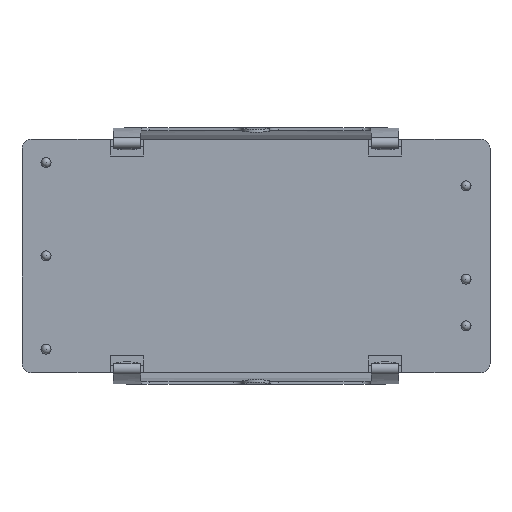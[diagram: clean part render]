
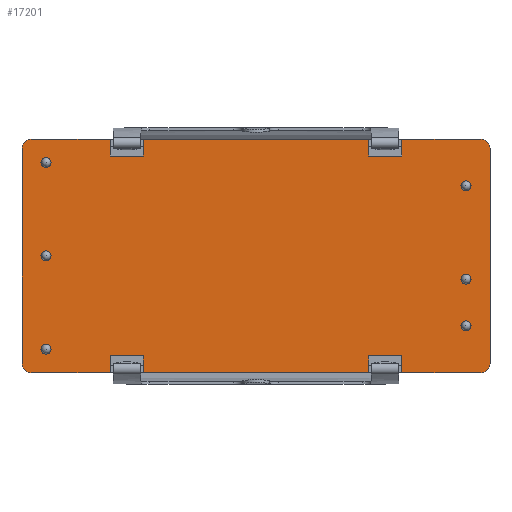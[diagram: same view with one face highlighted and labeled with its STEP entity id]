
A CAD part, top view. The second image highlights one B-rep face of the part: STEP entity #17201.
In plain terms, the highlighted planar face has unit normal (0, 0, 1).
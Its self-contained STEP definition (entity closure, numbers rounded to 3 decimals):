
#84=FACE_BOUND('',#2359,.T.);
#85=FACE_BOUND('',#2360,.T.);
#86=FACE_BOUND('',#2361,.T.);
#87=FACE_BOUND('',#2362,.T.);
#88=FACE_BOUND('',#2363,.T.);
#89=FACE_BOUND('',#2364,.T.);
#1393=FACE_OUTER_BOUND('',#2358,.T.);
#2358=EDGE_LOOP('',(#15665,#15666,#15667,#15668,#15669,#15670,#15671,#15672,
#15673,#15674,#15675,#15676,#15677,#15678,#15679,#15680,#15681,#15682,#15683,
#15684,#15685,#15686,#15687,#15688));
#2359=EDGE_LOOP('',(#15689));
#2360=EDGE_LOOP('',(#15690));
#2361=EDGE_LOOP('',(#15691));
#2362=EDGE_LOOP('',(#15692));
#2363=EDGE_LOOP('',(#15693));
#2364=EDGE_LOOP('',(#15694));
#3180=CIRCLE('',#18889,0.55);
#3182=CIRCLE('',#18892,0.55);
#3184=CIRCLE('',#18895,0.55);
#3186=CIRCLE('',#18898,0.55);
#3188=CIRCLE('',#18901,0.55);
#3190=CIRCLE('',#18904,0.55);
#3207=CIRCLE('',#18941,1.025);
#3208=CIRCLE('',#18943,1.025);
#3209=CIRCLE('',#18946,1.025);
#3210=CIRCLE('',#18948,1.025);
#4749=LINE('',#29182,#6401);
#4752=LINE('',#29187,#6404);
#4757=LINE('',#29196,#6409);
#4765=LINE('',#29214,#6417);
#4768=LINE('',#29219,#6420);
#4773=LINE('',#29228,#6425);
#4781=LINE('',#29245,#6433);
#4785=LINE('',#29253,#6437);
#4788=LINE('',#29258,#6440);
#4797=LINE('',#29277,#6449);
#4802=LINE('',#29287,#6454);
#4806=LINE('',#29293,#6458);
#4809=LINE('',#29299,#6461);
#4810=LINE('',#29302,#6462);
#4814=LINE('',#29308,#6466);
#4817=LINE('',#29314,#6469);
#4818=LINE('',#29317,#6470);
#4822=LINE('',#29323,#6474);
#4857=LINE('',#29469,#6509);
#4861=LINE('',#29480,#6513);
#6401=VECTOR('',#23771,3.6);
#6404=VECTOR('',#23776,1.85);
#6409=VECTOR('',#23783,1.85);
#6417=VECTOR('',#23795,3.6);
#6420=VECTOR('',#23800,1.85);
#6425=VECTOR('',#23807,1.85);
#6433=VECTOR('',#23819,1.85);
#6437=VECTOR('',#23825,3.6);
#6440=VECTOR('',#23830,1.85);
#6449=VECTOR('',#23843,1.85);
#6454=VECTOR('',#23850,1.85);
#6458=VECTOR('',#23856,3.6);
#6461=VECTOR('',#23861,8.6);
#6462=VECTOR('',#23864,8.6);
#6466=VECTOR('',#23870,24.5);
#6469=VECTOR('',#23875,8.6);
#6470=VECTOR('',#23878,8.6);
#6474=VECTOR('',#23884,24.5);
#6509=VECTOR('',#24049,23.4);
#6513=VECTOR('',#24063,23.4);
#8045=VERTEX_POINT('',#29179);
#8046=VERTEX_POINT('',#29181);
#8047=VERTEX_POINT('',#29186);
#8050=VERTEX_POINT('',#29194);
#8057=VERTEX_POINT('',#29211);
#8058=VERTEX_POINT('',#29213);
#8059=VERTEX_POINT('',#29218);
#8062=VERTEX_POINT('',#29226);
#8068=VERTEX_POINT('',#29242);
#8069=VERTEX_POINT('',#29244);
#8072=VERTEX_POINT('',#29252);
#8073=VERTEX_POINT('',#29257);
#8080=VERTEX_POINT('',#29274);
#8081=VERTEX_POINT('',#29276);
#8084=VERTEX_POINT('',#29284);
#8085=VERTEX_POINT('',#29286);
#8088=VERTEX_POINT('',#29297);
#8089=VERTEX_POINT('',#29301);
#8092=VERTEX_POINT('',#29312);
#8093=VERTEX_POINT('',#29316);
#8108=VERTEX_POINT('',#29361);
#8110=VERTEX_POINT('',#29366);
#8112=VERTEX_POINT('',#29371);
#8114=VERTEX_POINT('',#29376);
#8116=VERTEX_POINT('',#29381);
#8118=VERTEX_POINT('',#29386);
#8139=VERTEX_POINT('',#29467);
#8140=VERTEX_POINT('',#29468);
#8141=VERTEX_POINT('',#29475);
#8142=VERTEX_POINT('',#29479);
#10513=EDGE_CURVE('',#8046,#8045,#4749,.T.);
#10516=EDGE_CURVE('',#8047,#8046,#4752,.T.);
#10521=EDGE_CURVE('',#8045,#8050,#4757,.T.);
#10529=EDGE_CURVE('',#8058,#8057,#4765,.T.);
#10532=EDGE_CURVE('',#8059,#8058,#4768,.T.);
#10537=EDGE_CURVE('',#8057,#8062,#4773,.T.);
#10545=EDGE_CURVE('',#8069,#8068,#4781,.T.);
#10549=EDGE_CURVE('',#8072,#8069,#4785,.T.);
#10552=EDGE_CURVE('',#8073,#8072,#4788,.T.);
#10561=EDGE_CURVE('',#8081,#8080,#4797,.T.);
#10566=EDGE_CURVE('',#8085,#8084,#4802,.T.);
#10570=EDGE_CURVE('',#8080,#8085,#4806,.T.);
#10573=EDGE_CURVE('',#8088,#8062,#4809,.T.);
#10574=EDGE_CURVE('',#8047,#8089,#4810,.T.);
#10578=EDGE_CURVE('',#8059,#8050,#4814,.T.);
#10581=EDGE_CURVE('',#8092,#8084,#4817,.T.);
#10582=EDGE_CURVE('',#8073,#8093,#4818,.T.);
#10586=EDGE_CURVE('',#8081,#8068,#4822,.T.);
#10606=EDGE_CURVE('',#8108,#8108,#3180,.T.);
#10608=EDGE_CURVE('',#8110,#8110,#3182,.T.);
#10610=EDGE_CURVE('',#8112,#8112,#3184,.T.);
#10612=EDGE_CURVE('',#8114,#8114,#3186,.T.);
#10614=EDGE_CURVE('',#8116,#8116,#3188,.T.);
#10616=EDGE_CURVE('',#8118,#8118,#3190,.T.);
#10657=EDGE_CURVE('',#8139,#8140,#4857,.T.);
#10660=EDGE_CURVE('',#8140,#8088,#3207,.T.);
#10661=EDGE_CURVE('',#8089,#8141,#3208,.T.);
#10663=EDGE_CURVE('',#8141,#8142,#4861,.T.);
#10665=EDGE_CURVE('',#8142,#8092,#3209,.T.);
#10666=EDGE_CURVE('',#8093,#8139,#3210,.T.);
#15665=ORIENTED_EDGE('',*,*,#10521,.T.);
#15666=ORIENTED_EDGE('',*,*,#10578,.F.);
#15667=ORIENTED_EDGE('',*,*,#10532,.T.);
#15668=ORIENTED_EDGE('',*,*,#10529,.T.);
#15669=ORIENTED_EDGE('',*,*,#10537,.T.);
#15670=ORIENTED_EDGE('',*,*,#10573,.F.);
#15671=ORIENTED_EDGE('',*,*,#10660,.F.);
#15672=ORIENTED_EDGE('',*,*,#10657,.F.);
#15673=ORIENTED_EDGE('',*,*,#10666,.F.);
#15674=ORIENTED_EDGE('',*,*,#10582,.F.);
#15675=ORIENTED_EDGE('',*,*,#10552,.T.);
#15676=ORIENTED_EDGE('',*,*,#10549,.T.);
#15677=ORIENTED_EDGE('',*,*,#10545,.T.);
#15678=ORIENTED_EDGE('',*,*,#10586,.F.);
#15679=ORIENTED_EDGE('',*,*,#10561,.T.);
#15680=ORIENTED_EDGE('',*,*,#10570,.T.);
#15681=ORIENTED_EDGE('',*,*,#10566,.T.);
#15682=ORIENTED_EDGE('',*,*,#10581,.F.);
#15683=ORIENTED_EDGE('',*,*,#10665,.F.);
#15684=ORIENTED_EDGE('',*,*,#10663,.F.);
#15685=ORIENTED_EDGE('',*,*,#10661,.F.);
#15686=ORIENTED_EDGE('',*,*,#10574,.F.);
#15687=ORIENTED_EDGE('',*,*,#10516,.T.);
#15688=ORIENTED_EDGE('',*,*,#10513,.T.);
#15689=ORIENTED_EDGE('',*,*,#10606,.T.);
#15690=ORIENTED_EDGE('',*,*,#10608,.T.);
#15691=ORIENTED_EDGE('',*,*,#10610,.T.);
#15692=ORIENTED_EDGE('',*,*,#10612,.T.);
#15693=ORIENTED_EDGE('',*,*,#10614,.T.);
#15694=ORIENTED_EDGE('',*,*,#10616,.T.);
#16303=PLANE('',#18949);
#17201=ADVANCED_FACE('',(#1393,#84,#85,#86,#87,#88,#89),#16303,.T.);
#18889=AXIS2_PLACEMENT_3D('',#29362,#23923,#23924);
#18892=AXIS2_PLACEMENT_3D('',#29367,#23929,#23930);
#18895=AXIS2_PLACEMENT_3D('',#29372,#23935,#23936);
#18898=AXIS2_PLACEMENT_3D('',#29377,#23941,#23942);
#18901=AXIS2_PLACEMENT_3D('',#29382,#23947,#23948);
#18904=AXIS2_PLACEMENT_3D('',#29387,#23953,#23954);
#18941=AXIS2_PLACEMENT_3D('',#29473,#24054,#24055);
#18943=AXIS2_PLACEMENT_3D('',#29476,#24058,#24059);
#18946=AXIS2_PLACEMENT_3D('',#29483,#24067,#24068);
#18948=AXIS2_PLACEMENT_3D('',#29485,#24071,#24072);
#18949=AXIS2_PLACEMENT_3D('',#29486,#24073,#24074);
#23771=DIRECTION('',(1.,0.,0.));
#23776=DIRECTION('',(0.,1.,0.));
#23783=DIRECTION('',(0.,-1.,0.));
#23795=DIRECTION('',(1.,0.,0.));
#23800=DIRECTION('',(0.,1.,0.));
#23807=DIRECTION('',(0.,-1.,0.));
#23819=DIRECTION('',(0.,1.,0.));
#23825=DIRECTION('',(-1.,0.,0.));
#23830=DIRECTION('',(0.,-1.,0.));
#23843=DIRECTION('',(0.,-1.,0.));
#23850=DIRECTION('',(0.,1.,0.));
#23856=DIRECTION('',(-1.,0.,0.));
#23861=DIRECTION('',(-1.,0.,0.));
#23864=DIRECTION('',(-1.,0.,0.));
#23870=DIRECTION('',(-1.,0.,0.));
#23875=DIRECTION('',(1.,0.,0.));
#23878=DIRECTION('',(1.,0.,0.));
#23884=DIRECTION('',(1.,0.,0.));
#23923=DIRECTION('center_axis',(0.,0.,
-1.));
#23924=DIRECTION('ref_axis',(-1.,0.,0.));
#23929=DIRECTION('center_axis',(0.,0.,
-1.));
#23930=DIRECTION('ref_axis',(-1.,0.,0.));
#23935=DIRECTION('center_axis',(0.,0.,
-1.));
#23936=DIRECTION('ref_axis',(-1.,0.,0.));
#23941=DIRECTION('center_axis',(0.,0.,
-1.));
#23942=DIRECTION('ref_axis',(-1.,0.,0.));
#23947=DIRECTION('center_axis',(0.,0.,
-1.));
#23948=DIRECTION('ref_axis',(-1.,0.,0.));
#23953=DIRECTION('center_axis',(0.,0.,
-1.));
#23954=DIRECTION('ref_axis',(-1.,0.,0.));
#24049=DIRECTION('',(0.,-1.,0.));
#24054=DIRECTION('center_axis',(0.,0.,-1.));
#24055=DIRECTION('ref_axis',(0.,1.,0.));
#24058=DIRECTION('center_axis',(0.,0.,-1.));
#24059=DIRECTION('ref_axis',(1.,0.,0.));
#24063=DIRECTION('',(0.,1.,0.));
#24067=DIRECTION('center_axis',(0.,0.,-1.));
#24068=DIRECTION('ref_axis',(0.,-1.,0.));
#24071=DIRECTION('center_axis',(0.,0.,-1.));
#24072=DIRECTION('ref_axis',(-1.,0.,0.));
#24073=DIRECTION('center_axis',(0.,0.,
1.));
#24074=DIRECTION('ref_axis',(1.,0.,0.));
#29179=CARTESIAN_POINT('',(-12.25,-10.875,11.));
#29181=CARTESIAN_POINT('',(-15.85,-10.875,11.));
#29182=CARTESIAN_POINT('',(-6.125,-10.875,11.));
#29186=CARTESIAN_POINT('',(-15.85,-12.725,11.));
#29187=CARTESIAN_POINT('',(-15.85,-5.438,11.));
#29194=CARTESIAN_POINT('',(-12.25,-12.725,11.));
#29196=CARTESIAN_POINT('',(-12.25,-6.363,11.));
#29211=CARTESIAN_POINT('',(15.85,-10.875,11.));
#29213=CARTESIAN_POINT('',(12.25,-10.875,11.));
#29214=CARTESIAN_POINT('',(7.925,-10.875,11.));
#29218=CARTESIAN_POINT('',(12.25,-12.725,11.));
#29219=CARTESIAN_POINT('',(12.25,-5.438,11.));
#29226=CARTESIAN_POINT('',(15.85,-12.725,11.));
#29228=CARTESIAN_POINT('',(15.85,-6.363,11.));
#29242=CARTESIAN_POINT('',(12.25,12.725,11.));
#29244=CARTESIAN_POINT('',(12.25,10.875,11.));
#29245=CARTESIAN_POINT('',(12.25,6.363,11.));
#29252=CARTESIAN_POINT('',(15.85,10.875,11.));
#29253=CARTESIAN_POINT('',(6.125,10.875,11.));
#29257=CARTESIAN_POINT('',(15.85,12.725,11.));
#29258=CARTESIAN_POINT('',(15.85,5.438,11.));
#29274=CARTESIAN_POINT('',(-12.25,10.875,11.));
#29276=CARTESIAN_POINT('',(-12.25,12.725,11.));
#29277=CARTESIAN_POINT('',(-12.25,5.438,11.));
#29284=CARTESIAN_POINT('',(-15.85,12.725,11.));
#29286=CARTESIAN_POINT('',(-15.85,10.875,11.));
#29287=CARTESIAN_POINT('',(-15.85,6.363,11.));
#29293=CARTESIAN_POINT('',(-7.925,10.875,11.));
#29297=CARTESIAN_POINT('',(24.45,-12.725,11.));
#29299=CARTESIAN_POINT('',(24.45,-12.725,11.));
#29301=CARTESIAN_POINT('',(-24.45,-12.725,11.));
#29302=CARTESIAN_POINT('',(24.45,-12.725,11.));
#29308=CARTESIAN_POINT('',(24.45,-12.725,11.));
#29312=CARTESIAN_POINT('',(-24.45,12.725,11.));
#29314=CARTESIAN_POINT('',(-24.45,12.725,11.));
#29316=CARTESIAN_POINT('',(24.45,12.725,11.));
#29317=CARTESIAN_POINT('',(-24.45,12.725,11.));
#29323=CARTESIAN_POINT('',(-24.45,12.725,11.));
#29361=CARTESIAN_POINT('',(-22.31,0.,11.));
#29362=CARTESIAN_POINT('Origin',(-22.86,0.,11.));
#29366=CARTESIAN_POINT('',(23.41,-7.62,11.));
#29367=CARTESIAN_POINT('Origin',(22.86,-7.62,11.));
#29371=CARTESIAN_POINT('',(23.41,7.62,11.));
#29372=CARTESIAN_POINT('Origin',(22.86,7.62,11.));
#29376=CARTESIAN_POINT('',(23.41,-2.54,11.));
#29377=CARTESIAN_POINT('Origin',(22.86,-2.54,11.));
#29381=CARTESIAN_POINT('',(-22.31,10.16,11.));
#29382=CARTESIAN_POINT('Origin',(-22.86,10.16,11.));
#29386=CARTESIAN_POINT('',(-22.31,-10.16,11.));
#29387=CARTESIAN_POINT('Origin',(-22.86,-10.16,11.));
#29467=CARTESIAN_POINT('',(25.475,11.7,11.));
#29468=CARTESIAN_POINT('',(25.475,-11.7,11.));
#29469=CARTESIAN_POINT('',(25.475,11.7,11.));
#29473=CARTESIAN_POINT('Origin',(24.45,-11.7,11.));
#29475=CARTESIAN_POINT('',(-25.475,-11.7,11.));
#29476=CARTESIAN_POINT('Origin',(-24.45,-11.7,11.));
#29479=CARTESIAN_POINT('',(-25.475,11.7,11.));
#29480=CARTESIAN_POINT('',(-25.475,-11.7,11.));
#29483=CARTESIAN_POINT('Origin',(-24.45,11.7,11.));
#29485=CARTESIAN_POINT('Origin',(24.45,11.7,11.));
#29486=CARTESIAN_POINT('Origin',(0.,0.,11.));
